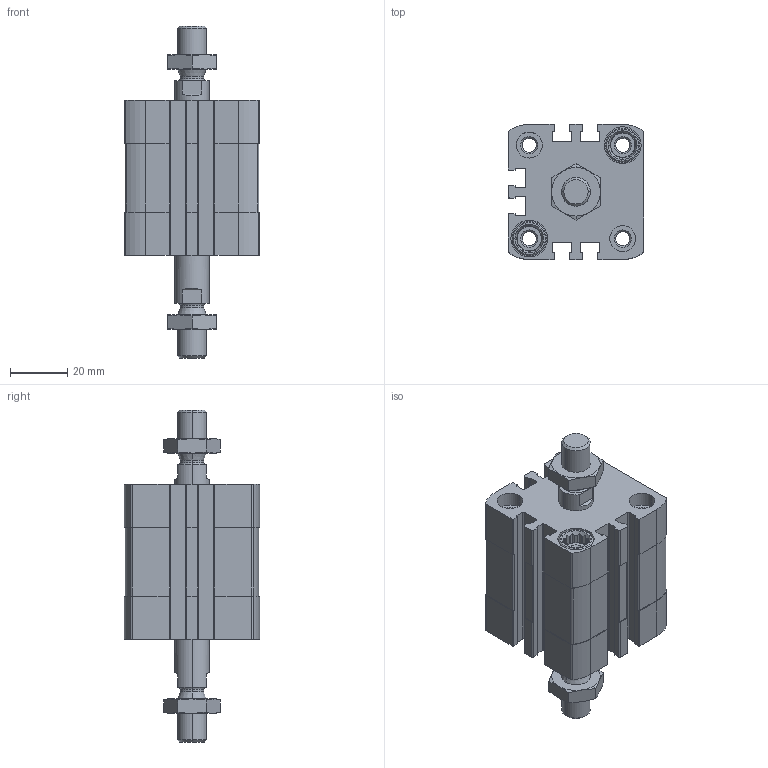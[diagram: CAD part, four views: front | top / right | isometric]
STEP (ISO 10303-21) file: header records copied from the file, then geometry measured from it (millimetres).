
FILE_DESCRIPTION (( 'STEP AP203' ), '1' );
FILE_NAME ('CCN32-10-P.STEP', '2020-06-22T18:45:54', ( '' ), ( '' ), 'SwSTEP 2.0', 'SolidWorks 2019', '' );
FILE_SCHEMA (( 'CONFIG_CONTROL_DESIGN' ));
Length unit declared in the file: millimetre
Products named in the file (1): CCN32-10-P
Bounding box: 47 x 47 x 115.5 mm (x, y, z)
Volume: 97492.4 mm3; surface area: 36759.5 mm2
Topology: 4 solids, 4 shells, 536 faces, 1416 edges, 920 vertices
Faces by surface type: plane 288, cylinder 180, cone 60, torus 8
Entity records: 17371 total; most frequent: CARTESIAN_POINT 3741, DIRECTION 2898, ORIENTED_EDGE 2832, EDGE_CURVE 1416, AXIS2_PLACEMENT_3D 1069, VERTEX_POINT 920, LINE 760, VECTOR 760
